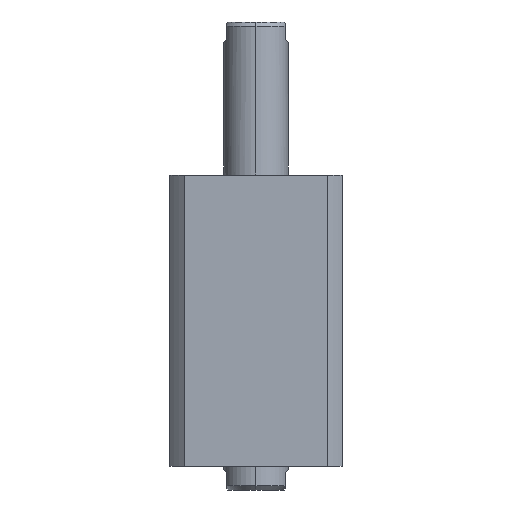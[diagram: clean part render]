
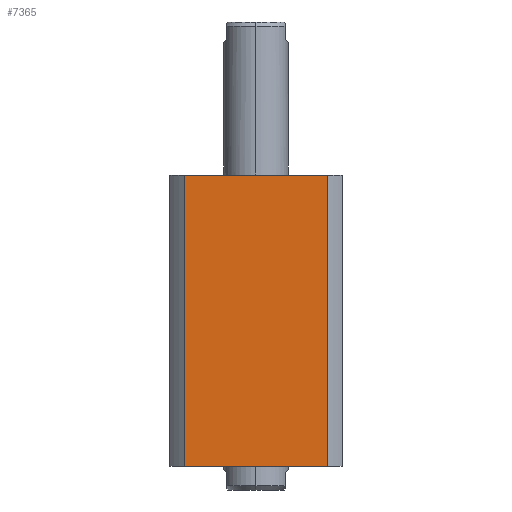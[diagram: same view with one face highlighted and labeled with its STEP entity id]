
A CAD part, left-side view. The second image highlights one B-rep face of the part: STEP entity #7365.
In plain terms, the highlighted planar face has unit normal (-1, 0, 0).
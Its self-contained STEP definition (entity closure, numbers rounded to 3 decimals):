
#1094 = CARTESIAN_POINT ( 'NONE',  ( -40., -33.226, -67.5 ) ) ;
#1135 = LINE ( 'NONE', #2183, #9683 ) ;
#1279 = VERTEX_POINT ( 'NONE', #1094 ) ;
#1873 = CARTESIAN_POINT ( 'NONE',  ( -40., -33.226, 67.5 ) ) ;
#1968 = AXIS2_PLACEMENT_3D ( 'NONE', #8280, #4478, #7552 ) ;
#2183 = CARTESIAN_POINT ( 'NONE',  ( -40., 33.226, 67.5 ) ) ;
#3184 = FACE_OUTER_BOUND ( 'NONE', #4387, .T. ) ;
#3213 = CARTESIAN_POINT ( 'NONE',  ( -40., 33.226, 67.5 ) ) ;
#3791 = EDGE_CURVE ( 'NONE', #9493, #8018, #8420, .T. ) ;
#4029 = CARTESIAN_POINT ( 'NONE',  ( -40., -33.226, 67.5 ) ) ;
#4355 = ORIENTED_EDGE ( 'NONE', *, *, #3791, .F. ) ;
#4387 = EDGE_LOOP ( 'NONE', ( #8629, #8504, #4355, #5339 ) ) ;
#4478 = DIRECTION ( 'NONE',  ( 1., 0., 0. ) ) ;
#4531 = VERTEX_POINT ( 'NONE', #8569 ) ;
#4924 = EDGE_CURVE ( 'NONE', #4531, #1279, #7890, .T. ) ;
#5141 = LINE ( 'NONE', #4029, #9559 ) ;
#5154 = DIRECTION ( 'NONE',  ( 0., -1., 0. ) ) ;
#5271 = EDGE_CURVE ( 'NONE', #8018, #1279, #5141, .T. ) ;
#5339 = ORIENTED_EDGE ( 'NONE', *, *, #5399, .T. ) ;
#5399 = EDGE_CURVE ( 'NONE', #9493, #4531, #1135, .T. ) ;
#5626 = DIRECTION ( 'NONE',  ( 0., 0., -1. ) ) ;
#6712 = VECTOR ( 'NONE', #5154, 1000. ) ;
#7365 = ADVANCED_FACE ( 'NONE', ( #3184 ), #9081, .F. ) ;
#7552 = DIRECTION ( 'NONE',  ( 0., 1., 0. ) ) ;
#7890 = LINE ( 'NONE', #8940, #6712 ) ;
#8018 = VERTEX_POINT ( 'NONE', #1873 ) ;
#8280 = CARTESIAN_POINT ( 'NONE',  ( -40., 33.226, 67.5 ) ) ;
#8420 = LINE ( 'NONE', #3213, #8677 ) ;
#8504 = ORIENTED_EDGE ( 'NONE', *, *, #5271, .F. ) ;
#8569 = CARTESIAN_POINT ( 'NONE',  ( -40., 33.226, -67.5 ) ) ;
#8629 = ORIENTED_EDGE ( 'NONE', *, *, #4924, .T. ) ;
#8677 = VECTOR ( 'NONE', #9297, 1000. ) ;
#8940 = CARTESIAN_POINT ( 'NONE',  ( -40., 33.226, -67.5 ) ) ;
#9081 = PLANE ( 'NONE',  #1968 ) ;
#9125 = CARTESIAN_POINT ( 'NONE',  ( -40., 33.226, 67.5 ) ) ;
#9297 = DIRECTION ( 'NONE',  ( 0., -1., 0. ) ) ;
#9493 = VERTEX_POINT ( 'NONE', #9125 ) ;
#9559 = VECTOR ( 'NONE', #5626, 1000. ) ;
#9683 = VECTOR ( 'NONE', #9731, 1000. ) ;
#9731 = DIRECTION ( 'NONE',  ( 0., 0., -1. ) ) ;
